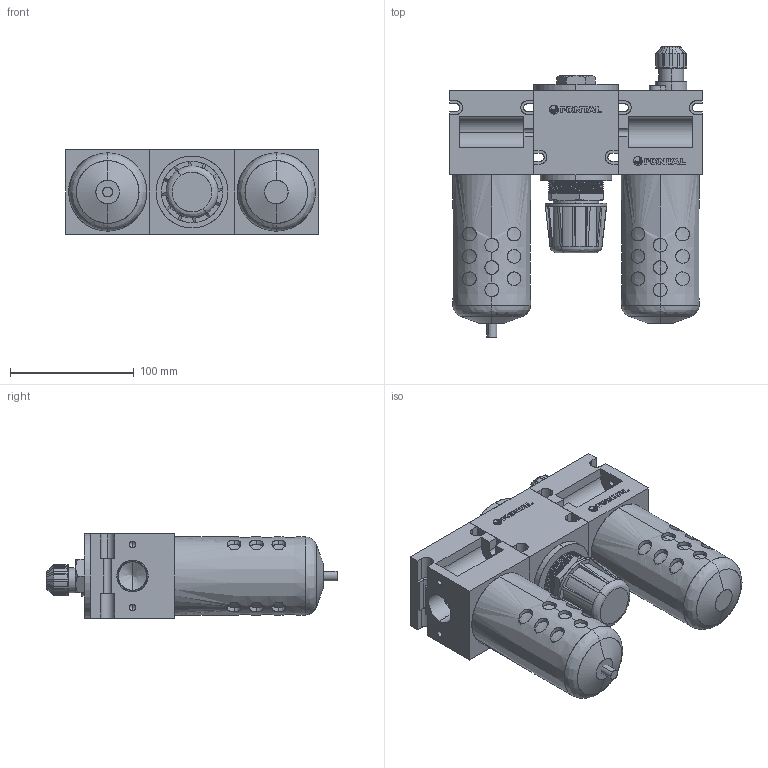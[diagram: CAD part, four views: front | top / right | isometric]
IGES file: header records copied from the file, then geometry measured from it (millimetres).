
Start section: SolidWorks IGES file using analytic representation for surfaces
Global section: file name: C:\Users\Toshiba\Desktop\C105##-06#Y##.IGS; native system: SolidWorks 2014; preprocessor: SolidWorks 2014; author: Toshiba; date: 160203.163409; units: millimetre
Bounding box: 204 x 234 x 68.4 mm (x, y, z)
Surface area: 215757.4 mm2 (no closed solid volume)
Topology: 0 solids, 0 shells, 895 faces, 13277 edges, 13257 vertices
Faces by surface type: bspline 523, revolution 372
